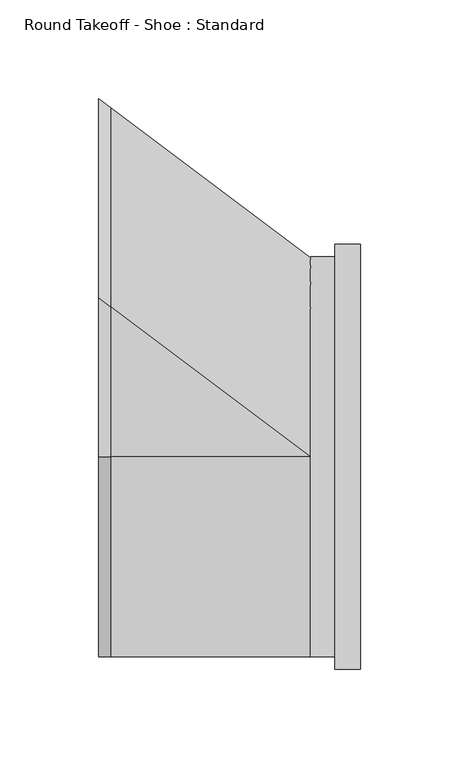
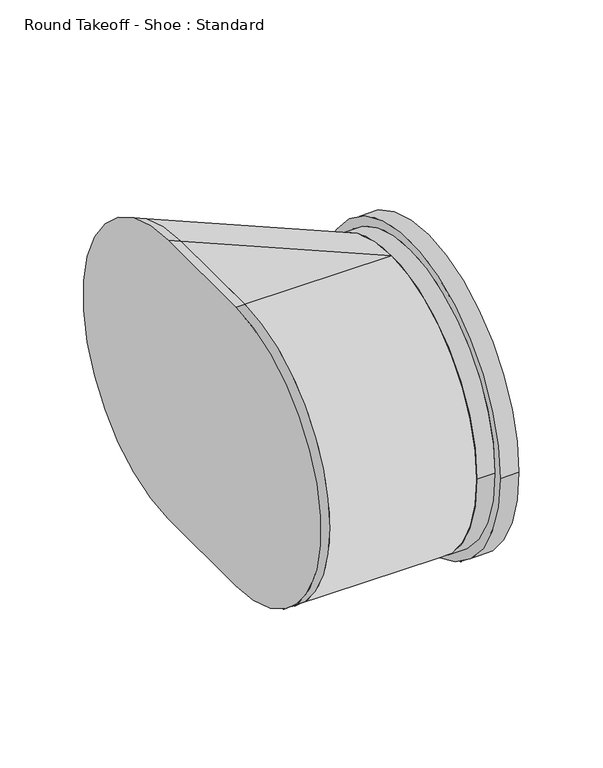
"""IFC4 building model written with IfcOpenShell, lengths in millimetres: duct fitting geometry, Round Takeoff - Shoe : Standard."""

from ifc_helpers import new_model, si_unit, point, frame, origin, place, context, project, spatial, circle_curve, trimmed, source, transform, mapped, element, save
from ifc_brep_helpers import plane_surface, cylinder_surface, extruded_surface, advanced_brep


def round_takeoff_shoe_standard_1102fee2(model_context):
    return source(origin(), model_context, "Body", "AdvancedBrep", [
        advanced_brep(
        [(127.0, 107.95, 0.0), (127.0, -107.95, 0.0), (101.6, 101.6, 0.0), (101.6, -101.6, 0.0), (114.0743747, 101.6, 0.0), (114.0743747, -101.6, 0.0), (114.0743747, 107.95, 0.0), (114.0743747, -107.95, 0.0)],
        [
            (0, 1, circle_curve(frame((127.0, 0.0, 0.0), z_axis=(1.0, 0.0, 0.0), x_axis=(0.0, -1.0, 0.0)), 107.95)),
            (1, 0, circle_curve(frame((127.0, 0.0, 0.0), z_axis=(1.0, 0.0, 0.0), x_axis=(0.0, -1.0, 0.0)), 107.95)),
            (2, 3, circle_curve(frame((101.6, 0.0, 0.0), z_axis=(-1.0, 0.0, 0.0), x_axis=(0.0, -1.0, 0.0)), 101.6)),
            (3, 2, circle_curve(frame((101.6, 0.0, 0.0), z_axis=(-1.0, 0.0, 0.0), x_axis=(0.0, -1.0, 0.0)), 101.6)),
            (2, 4),
            (4, 5, circle_curve(frame((114.0743747, 0.0, 0.0), z_axis=(-1.0, 0.0, 0.0), x_axis=(0.0, -1.0, 0.0)), 101.6)),
            (5, 3),
            (5, 4, circle_curve(frame((114.0743747, 0.0, 0.0), z_axis=(-1.0, 0.0, 0.0), x_axis=(0.0, -1.0, 0.0)), 101.6)),
            (6, 7, circle_curve(frame((114.0743747, 0.0, 0.0), z_axis=(-1.0, 0.0, 0.0), x_axis=(0.0, -1.0, 0.0)), 107.95)),
            (7, 6, circle_curve(frame((114.0743747, 0.0, 0.0), z_axis=(-1.0, 0.0, 0.0), x_axis=(0.0, -1.0, 0.0)), 107.95)),
            (1, 7),
            (6, 0),
        ],
        [
            plane_surface(frame((127.0, -101.6, 0.0), z_axis=(1.0, 0.0, 0.0), x_axis=(0.0, 0.0, 1.0))),
            plane_surface(frame((101.6, -101.6, 0.0), z_axis=(-1.0, 0.0, 0.0), x_axis=(0.0, 0.0, -1.0))),
            cylinder_surface(frame((101.6, 0.0, 0.0), z_axis=(1.0, 0.0, 0.0), x_axis=(0.0, -1.0, 0.0)), 101.6),
            plane_surface(frame((114.0743747, -107.95, 0.0), z_axis=(-1.0, 0.0, 0.0), x_axis=(0.0, 0.0, -1.0))),
            cylinder_surface(frame((114.0743747, 0.0, 0.0), z_axis=(1.0, 0.0, 0.0), x_axis=(0.0, -1.0, 0.0)), 107.95),
        ],
        [
            (0, [[1, 2]]),
            (1, [[3, 4]]),
            (2, [[5, 6, 7, -3]]),
            (2, [[-7, 8, -5, -4]]),
            (3, [[9, 10], [-8, -6]]),
            (4, [[11, -9, 12, -2]]),
            (4, [[-12, -10, -11, -1]]),
        ],
    ),
        advanced_brep(
        [(-6.096, 0.0, -101.6), (-6.096, 0.0, 101.6), (-6.096, 80.772, 101.6), (-6.096, 80.772, -101.6), (0.0, 0.0, -101.6), (0.0, 76.2, -101.6), (0.0, 76.2, 101.6), (0.0, 0.0, 101.6)],
        [
            (0, 1, circle_curve(frame((-6.096, 0.0, 0.0), z_axis=(-1.0, 0.0, 0.0), x_axis=(0.0, -1.0, 0.0)), 101.6)),
            (1, 2),
            (2, 3, circle_curve(frame((-6.096, 80.772, 0.0), z_axis=(-1.0, 0.0, 0.0), x_axis=(0.0, -1.0, 0.0)), 101.6)),
            (3, 0),
            (4, 5),
            (5, 6, circle_curve(frame((0.0, 76.2, 0.0), z_axis=(1.0, 0.0, 0.0), x_axis=(0.0, -1.0, 0.0)), 101.6)),
            (6, 7),
            (7, 4, circle_curve(frame((0.0, 0.0, 0.0), z_axis=(1.0, 0.0, 0.0), x_axis=(0.0, -1.0, 0.0)), 101.6)),
            (4, 0),
            (3, 5),
            (2, 6),
            (1, 7),
        ],
        [
            plane_surface(frame((-6.096, 40.386, 0.0), z_axis=(-1.0, 0.0, 0.0), x_axis=(0.0, -1.0, 0.0))),
            plane_surface(frame((0.0, 38.1, 0.0), z_axis=(1.0, 0.0, 0.0), x_axis=(0.0, -1.0, 0.0))),
            plane_surface(frame((0.0, 38.1, -101.6), z_axis=(0.0, 0.0, -1.0), x_axis=(0.0, 1.0, 0.0))),
            extruded_surface(trimmed(circle_curve(frame((-6.096, 80.772, 0.0), z_axis=(1.0, 0.0, 0.0), x_axis=(0.0, -1.0, 0.0)), 101.6), [point((-6.096, 80.772, -101.6))], [point((-6.096, 80.772, 101.6))], True, "CARTESIAN"), (6.096, -4.572000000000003, 0.0), 7.620000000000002),
            plane_surface(frame((0.0, 38.1, 101.6), z_axis=(0.0, 0.0, 1.0), x_axis=(0.0, -1.0, 0.0))),
            cylinder_surface(frame((0.0, 0.0, 0.0), z_axis=(-1.0, 0.0, 0.0), x_axis=(0.0, -1.0, 0.0)), 101.6),
        ],
        [
            (0, [[1, 2, 3, 4]]),
            (1, [[5, 6, 7, 8]]),
            (2, [[9, -4, 10, -5]]),
            (3, [[-10, -3, 11, -6]]),
            (4, [[-11, -2, 12, -7]]),
            (5, [[-12, -1, -9, -8]]),
        ],
    ),
        advanced_brep(
        [(101.6, 0.0, -101.6), (101.6, 0.0, 101.6), (0.0, 0.0, -101.6), (0.0, 0.0, 101.6), (0.0, 76.2, 101.6), (0.0, 76.2, -101.6)],
        [
            (0, 1, circle_curve(frame((101.6, 0.0, 0.0), z_axis=(1.0, 0.0, 0.0), x_axis=(0.0, -1.0, 0.0)), 101.6)),
            (1, 0, circle_curve(frame((101.6, 0.0, 0.0), z_axis=(1.0, 0.0, 0.0), x_axis=(0.0, -1.0, 0.0)), 101.6)),
            (2, 3, circle_curve(frame((0.0, 0.0, 0.0), z_axis=(-1.0, 0.0, 0.0), x_axis=(0.0, -1.0, 0.0)), 101.6)),
            (3, 4),
            (4, 5, circle_curve(frame((0.0, 76.2, 0.0), z_axis=(-1.0, 0.0, 0.0), x_axis=(0.0, -1.0, 0.0)), 101.6)),
            (5, 2),
            (2, 0),
            (1, 3),
            (1, 4),
            (0, 5),
        ],
        [
            plane_surface(frame((101.6, 0.0, 0.0), z_axis=(1.0, 0.0, 0.0), x_axis=(0.0, -1.0, 0.0))),
            plane_surface(frame((0.0, 38.1, 0.0), z_axis=(-1.0, 0.0, 0.0), x_axis=(0.0, -1.0, 0.0))),
            cylinder_surface(frame((0.0, 0.0, 0.0), z_axis=(1.0, 0.0, 0.0), x_axis=(0.0, -1.0, 0.0)), 101.6),
            plane_surface(frame((0.0, 38.1, 101.6), z_axis=(0.0, 0.0, 1.0), x_axis=(0.0, 1.0, 0.0))),
            extruded_surface(trimmed(circle_curve(frame((101.6, 0.0, 0.0), z_axis=(-1.0, 0.0, 0.0), x_axis=(0.0, -1.0, 0.0)), 101.6), [point((101.6, 0.0, 101.6))], [point((101.6, 0.0, -101.6))], True, "CARTESIAN"), (-101.6, 76.2, 0.0), 127.0),
            plane_surface(frame((0.0, 38.1, -101.6), z_axis=(0.0, 0.0, -1.0), x_axis=(0.0, -1.0, 0.0))),
        ],
        [
            (0, [[1, 2]]),
            (1, [[3, 4, 5, 6]]),
            (2, [[7, -2, 8, -3]]),
            (3, [[-8, 9, -4]]),
            (4, [[-9, -1, 10, -5]]),
            (5, [[-10, -7, -6]]),
        ],
    ),
    ])


if __name__ == "__main__":
    model = new_model("IFC4")
    model_context = context("Model", 3, world=origin())
    ifc_project = project(units=[si_unit("LENGTHUNIT", "METRE", prefix="MILLI")], contexts=[model_context])
    site = spatial("IfcSite", under=ifc_project)
    building = spatial("IfcBuilding", under=site)
    placement = place(None, origin())
    round_takeoff_shoe_standard_shape = round_takeoff_shoe_standard_1102fee2(model_context)
    element("IfcDuctFitting", 1, ObjectType="Round Takeoff - Shoe : Standard", at=placement, inside=building, context=model_context, shape_type="MappedRepresentation", body=[
        mapped(round_takeoff_shoe_standard_shape, transform((0.0, 0.0, 0.0), x_axis=(1.0, 0.0, 0.0), y_axis=(0.0, 1.0, 0.0), z_axis=(0.0, 0.0, 1.0))),
    ])
    save(model, "model.ifc")
